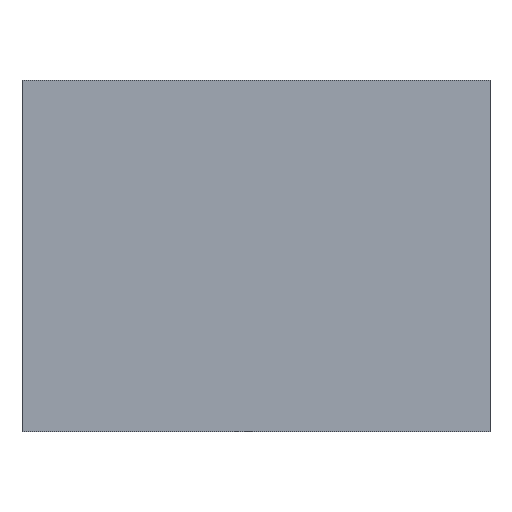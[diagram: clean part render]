
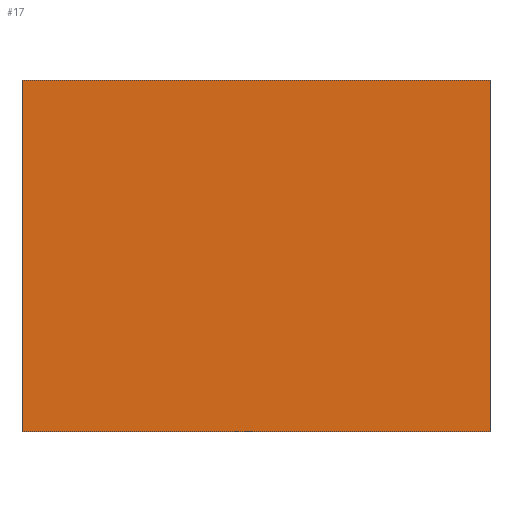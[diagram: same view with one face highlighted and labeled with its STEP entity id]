
A CAD part, left-side view. The second image highlights one B-rep face of the part: STEP entity #17.
In plain terms, the highlighted planar face has unit normal (-1, 0, 0).
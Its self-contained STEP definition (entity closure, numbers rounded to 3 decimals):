
#17 = ADVANCED_FACE('',(#18),#32,.F.);
#18 = FACE_BOUND('',#19,.F.);
#19 = EDGE_LOOP('',(#20,#55,#83,#111));
#20 = ORIENTED_EDGE('',*,*,#21,.F.);
#21 = EDGE_CURVE('',#22,#24,#26,.T.);
#22 = VERTEX_POINT('',#23);
#23 = CARTESIAN_POINT('',(187.5,-30.,-26.5));
#24 = VERTEX_POINT('',#25);
#25 = CARTESIAN_POINT('',(187.5,-30.,18.5));
#26 = SURFACE_CURVE('',#27,(#31,#43),.PCURVE_S1.);
#27 = LINE('',#28,#29);
#28 = CARTESIAN_POINT('',(187.5,-30.,-26.5));
#29 = VECTOR('',#30,1.);
#30 = DIRECTION('',(0.,0.,1.));
#31 = PCURVE('',#32,#37);
#32 = PLANE('',#33);
#33 = AXIS2_PLACEMENT_3D('',#34,#35,#36);
#34 = CARTESIAN_POINT('',(187.5,-30.,-26.5));
#35 = DIRECTION('',(1.,0.,0.));
#36 = DIRECTION('',(0.,0.,1.));
#37 = DEFINITIONAL_REPRESENTATION('',(#38),#42);
#38 = LINE('',#39,#40);
#39 = CARTESIAN_POINT('',(0.,0.));
#40 = VECTOR('',#41,1.);
#41 = DIRECTION('',(1.,0.));
#42 = ( GEOMETRIC_REPRESENTATION_CONTEXT(2) 
PARAMETRIC_REPRESENTATION_CONTEXT() REPRESENTATION_CONTEXT('2D SPACE',''
  ) );
#43 = PCURVE('',#44,#49);
#44 = PLANE('',#45);
#45 = AXIS2_PLACEMENT_3D('',#46,#47,#48);
#46 = CARTESIAN_POINT('',(187.5,-30.,-26.5));
#47 = DIRECTION('',(0.,1.,0.));
#48 = DIRECTION('',(0.,0.,1.));
#49 = DEFINITIONAL_REPRESENTATION('',(#50),#54);
#50 = LINE('',#51,#52);
#51 = CARTESIAN_POINT('',(0.,0.));
#52 = VECTOR('',#53,1.);
#53 = DIRECTION('',(1.,0.));
#54 = ( GEOMETRIC_REPRESENTATION_CONTEXT(2) 
PARAMETRIC_REPRESENTATION_CONTEXT() REPRESENTATION_CONTEXT('2D SPACE',''
  ) );
#55 = ORIENTED_EDGE('',*,*,#56,.T.);
#56 = EDGE_CURVE('',#22,#57,#59,.T.);
#57 = VERTEX_POINT('',#58);
#58 = CARTESIAN_POINT('',(187.5,30.,-26.5));
#59 = SURFACE_CURVE('',#60,(#64,#71),.PCURVE_S1.);
#60 = LINE('',#61,#62);
#61 = CARTESIAN_POINT('',(187.5,-30.,-26.5));
#62 = VECTOR('',#63,1.);
#63 = DIRECTION('',(0.,1.,0.));
#64 = PCURVE('',#32,#65);
#65 = DEFINITIONAL_REPRESENTATION('',(#66),#70);
#66 = LINE('',#67,#68);
#67 = CARTESIAN_POINT('',(0.,0.));
#68 = VECTOR('',#69,1.);
#69 = DIRECTION('',(0.,-1.));
#70 = ( GEOMETRIC_REPRESENTATION_CONTEXT(2) 
PARAMETRIC_REPRESENTATION_CONTEXT() REPRESENTATION_CONTEXT('2D SPACE',''
  ) );
#71 = PCURVE('',#72,#77);
#72 = PLANE('',#73);
#73 = AXIS2_PLACEMENT_3D('',#74,#75,#76);
#74 = CARTESIAN_POINT('',(187.5,-30.,-26.5));
#75 = DIRECTION('',(0.,0.,1.));
#76 = DIRECTION('',(1.,0.,0.));
#77 = DEFINITIONAL_REPRESENTATION('',(#78),#82);
#78 = LINE('',#79,#80);
#79 = CARTESIAN_POINT('',(0.,0.));
#80 = VECTOR('',#81,1.);
#81 = DIRECTION('',(0.,1.));
#82 = ( GEOMETRIC_REPRESENTATION_CONTEXT(2) 
PARAMETRIC_REPRESENTATION_CONTEXT() REPRESENTATION_CONTEXT('2D SPACE',''
  ) );
#83 = ORIENTED_EDGE('',*,*,#84,.T.);
#84 = EDGE_CURVE('',#57,#85,#87,.T.);
#85 = VERTEX_POINT('',#86);
#86 = CARTESIAN_POINT('',(187.5,30.,18.5));
#87 = SURFACE_CURVE('',#88,(#92,#99),.PCURVE_S1.);
#88 = LINE('',#89,#90);
#89 = CARTESIAN_POINT('',(187.5,30.,-26.5));
#90 = VECTOR('',#91,1.);
#91 = DIRECTION('',(0.,0.,1.));
#92 = PCURVE('',#32,#93);
#93 = DEFINITIONAL_REPRESENTATION('',(#94),#98);
#94 = LINE('',#95,#96);
#95 = CARTESIAN_POINT('',(0.,-60.));
#96 = VECTOR('',#97,1.);
#97 = DIRECTION('',(1.,0.));
#98 = ( GEOMETRIC_REPRESENTATION_CONTEXT(2) 
PARAMETRIC_REPRESENTATION_CONTEXT() REPRESENTATION_CONTEXT('2D SPACE',''
  ) );
#99 = PCURVE('',#100,#105);
#100 = PLANE('',#101);
#101 = AXIS2_PLACEMENT_3D('',#102,#103,#104);
#102 = CARTESIAN_POINT('',(187.5,30.,-26.5));
#103 = DIRECTION('',(0.,1.,0.));
#104 = DIRECTION('',(0.,0.,1.));
#105 = DEFINITIONAL_REPRESENTATION('',(#106),#110);
#106 = LINE('',#107,#108);
#107 = CARTESIAN_POINT('',(0.,0.));
#108 = VECTOR('',#109,1.);
#109 = DIRECTION('',(1.,0.));
#110 = ( GEOMETRIC_REPRESENTATION_CONTEXT(2) 
PARAMETRIC_REPRESENTATION_CONTEXT() REPRESENTATION_CONTEXT('2D SPACE',''
  ) );
#111 = ORIENTED_EDGE('',*,*,#112,.F.);
#112 = EDGE_CURVE('',#24,#85,#113,.T.);
#113 = SURFACE_CURVE('',#114,(#118,#125),.PCURVE_S1.);
#114 = LINE('',#115,#116);
#115 = CARTESIAN_POINT('',(187.5,-30.,18.5));
#116 = VECTOR('',#117,1.);
#117 = DIRECTION('',(0.,1.,0.));
#118 = PCURVE('',#32,#119);
#119 = DEFINITIONAL_REPRESENTATION('',(#120),#124);
#120 = LINE('',#121,#122);
#121 = CARTESIAN_POINT('',(45.,0.));
#122 = VECTOR('',#123,1.);
#123 = DIRECTION('',(0.,-1.));
#124 = ( GEOMETRIC_REPRESENTATION_CONTEXT(2) 
PARAMETRIC_REPRESENTATION_CONTEXT() REPRESENTATION_CONTEXT('2D SPACE',''
  ) );
#125 = PCURVE('',#126,#131);
#126 = PLANE('',#127);
#127 = AXIS2_PLACEMENT_3D('',#128,#129,#130);
#128 = CARTESIAN_POINT('',(187.5,-30.,18.5));
#129 = DIRECTION('',(0.,0.,1.));
#130 = DIRECTION('',(1.,0.,0.));
#131 = DEFINITIONAL_REPRESENTATION('',(#132),#136);
#132 = LINE('',#133,#134);
#133 = CARTESIAN_POINT('',(0.,0.));
#134 = VECTOR('',#135,1.);
#135 = DIRECTION('',(0.,1.));
#136 = ( GEOMETRIC_REPRESENTATION_CONTEXT(2) 
PARAMETRIC_REPRESENTATION_CONTEXT() REPRESENTATION_CONTEXT('2D SPACE',''
  ) );
